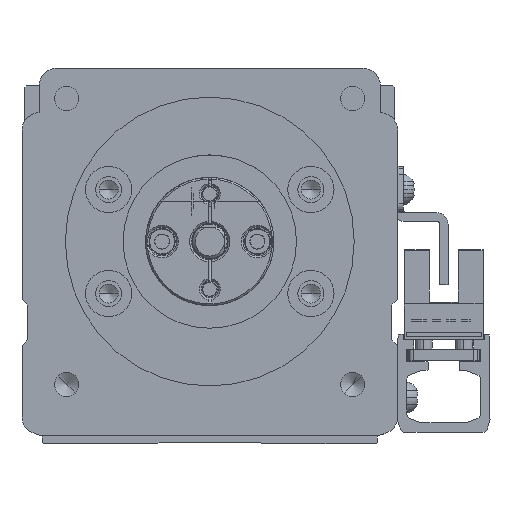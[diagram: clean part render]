
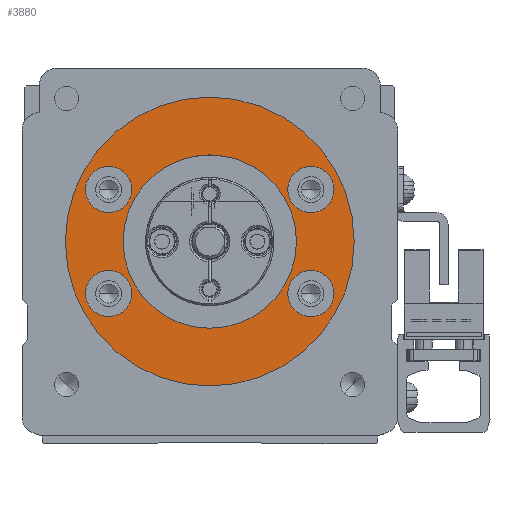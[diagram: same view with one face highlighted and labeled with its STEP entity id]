
A CAD part, front view. The second image highlights one B-rep face of the part: STEP entity #3880.
In plain terms, the highlighted planar face has unit normal (0, -1, 0).
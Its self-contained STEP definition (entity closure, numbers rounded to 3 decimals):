
#3880=ADVANCED_FACE('',(#10084,#10085,#10086,#10087,#10088,#10089),#10090,.F.);
#10084=FACE_BOUND('',#19597,.T.);
#10085=FACE_BOUND('',#19598,.T.);
#10086=FACE_BOUND('',#19599,.T.);
#10087=FACE_BOUND('',#19600,.T.);
#10088=FACE_BOUND('',#19601,.T.);
#10089=FACE_OUTER_BOUND('',#19602,.T.);
#10090=PLANE('',#19603);
#19597=EDGE_LOOP('',(#29998,#29999));
#19598=EDGE_LOOP('',(#30000,#30001));
#19599=EDGE_LOOP('',(#30002,#30003));
#19600=EDGE_LOOP('',(#30004,#30005));
#19601=EDGE_LOOP('',(#30006,#30007));
#19602=EDGE_LOOP('',(#30008,#30009));
#19603=AXIS2_PLACEMENT_3D('',#30010,#30011,#30012);
#29998=ORIENTED_EDGE('',*,*,#56072,.T.);
#29999=ORIENTED_EDGE('',*,*,#56073,.T.);
#30000=ORIENTED_EDGE('',*,*,#56074,.T.);
#30001=ORIENTED_EDGE('',*,*,#56075,.T.);
#30002=ORIENTED_EDGE('',*,*,#56076,.T.);
#30003=ORIENTED_EDGE('',*,*,#56077,.T.);
#30004=ORIENTED_EDGE('',*,*,#56078,.T.);
#30005=ORIENTED_EDGE('',*,*,#56079,.T.);
#30006=ORIENTED_EDGE('',*,*,#56080,.T.);
#30007=ORIENTED_EDGE('',*,*,#56081,.T.);
#30008=ORIENTED_EDGE('',*,*,#56082,.T.);
#30009=ORIENTED_EDGE('',*,*,#56083,.T.);
#30010=CARTESIAN_POINT('',(300.,-35.,0.));
#30011=DIRECTION('',(0.,1.0,0.));
#30012=DIRECTION('',(1.0,0.,0.));
#56072=EDGE_CURVE('',#66673,#66674,#66675,.T.);
#56073=EDGE_CURVE('',#66674,#66673,#66676,.T.);
#56074=EDGE_CURVE('',#66677,#66678,#66679,.T.);
#56075=EDGE_CURVE('',#66678,#66677,#66680,.T.);
#56076=EDGE_CURVE('',#66681,#66682,#66683,.T.);
#56077=EDGE_CURVE('',#66682,#66681,#66684,.T.);
#56078=EDGE_CURVE('',#66685,#66686,#66687,.T.);
#56079=EDGE_CURVE('',#66686,#66685,#66688,.T.);
#56080=EDGE_CURVE('',#66689,#66690,#66691,.T.);
#56081=EDGE_CURVE('',#66690,#66689,#66692,.T.);
#56082=EDGE_CURVE('',#66693,#66694,#66695,.T.);
#56083=EDGE_CURVE('',#66694,#66693,#66696,.T.);
#66673=VERTEX_POINT('',#82108);
#66674=VERTEX_POINT('',#82109);
#66675=CIRCLE('',#82110,4.0);
#66676=CIRCLE('',#82111,4.0);
#66677=VERTEX_POINT('',#82112);
#66678=VERTEX_POINT('',#82113);
#66679=CIRCLE('',#82114,4.0);
#66680=CIRCLE('',#82115,4.0);
#66681=VERTEX_POINT('',#82116);
#66682=VERTEX_POINT('',#82117);
#66683=CIRCLE('',#82118,4.0);
#66684=CIRCLE('',#82119,4.0);
#66685=VERTEX_POINT('',#82120);
#66686=VERTEX_POINT('',#82121);
#66687=CIRCLE('',#82122,4.0);
#66688=CIRCLE('',#82123,4.0);
#66689=VERTEX_POINT('',#82124);
#66690=VERTEX_POINT('',#82125);
#66691=CIRCLE('',#82126,15.0);
#66692=CIRCLE('',#82127,15.0);
#66693=VERTEX_POINT('',#82128);
#66694=VERTEX_POINT('',#82129);
#66695=CIRCLE('',#82130,25.0);
#66696=CIRCLE('',#82131,25.0);
#82108=CARTESIAN_POINT('',(286.5,-35.,-9.));
#82109=CARTESIAN_POINT('',(278.5,-35.,-9.));
#82110=AXIS2_PLACEMENT_3D('',#103339,#103340,#103341);
#82111=AXIS2_PLACEMENT_3D('',#103342,#103343,#103344);
#82112=CARTESIAN_POINT('',(321.5,-35.,-9.));
#82113=CARTESIAN_POINT('',(313.5,-35.,-9.));
#82114=AXIS2_PLACEMENT_3D('',#103345,#103346,#103347);
#82115=AXIS2_PLACEMENT_3D('',#103348,#103349,#103350);
#82116=CARTESIAN_POINT('',(286.5,-35.,9.));
#82117=CARTESIAN_POINT('',(278.5,-35.,9.));
#82118=AXIS2_PLACEMENT_3D('',#103351,#103352,#103353);
#82119=AXIS2_PLACEMENT_3D('',#103354,#103355,#103356);
#82120=CARTESIAN_POINT('',(321.5,-35.,9.));
#82121=CARTESIAN_POINT('',(313.5,-35.,9.));
#82122=AXIS2_PLACEMENT_3D('',#103357,#103358,#103359);
#82123=AXIS2_PLACEMENT_3D('',#103360,#103361,#103362);
#82124=CARTESIAN_POINT('',(285.,-35.,0.));
#82125=CARTESIAN_POINT('',(315.,-35.,0.));
#82126=AXIS2_PLACEMENT_3D('',#103363,#103364,#103365);
#82127=AXIS2_PLACEMENT_3D('',#103366,#103367,#103368);
#82128=CARTESIAN_POINT('',(325.,-35.,0.));
#82129=CARTESIAN_POINT('',(275.,-35.,0.));
#82130=AXIS2_PLACEMENT_3D('',#103369,#103370,#103371);
#82131=AXIS2_PLACEMENT_3D('',#103372,#103373,#103374);
#103339=CARTESIAN_POINT('',(282.5,-35.,-9.));
#103340=DIRECTION('',(0.,1.0,0.));
#103341=DIRECTION('',(-1.0,0.,0.));
#103342=CARTESIAN_POINT('',(282.5,-35.,-9.));
#103343=DIRECTION('',(0.,1.0,0.));
#103344=DIRECTION('',(-1.0,0.,0.));
#103345=CARTESIAN_POINT('',(317.5,-35.,-9.));
#103346=DIRECTION('',(0.,1.0,0.));
#103347=DIRECTION('',(-1.0,0.,0.));
#103348=CARTESIAN_POINT('',(317.5,-35.,-9.));
#103349=DIRECTION('',(0.,1.0,0.));
#103350=DIRECTION('',(-1.0,0.,0.));
#103351=CARTESIAN_POINT('',(282.5,-35.,9.));
#103352=DIRECTION('',(0.,1.0,0.));
#103353=DIRECTION('',(-1.0,0.,0.));
#103354=CARTESIAN_POINT('',(282.5,-35.,9.));
#103355=DIRECTION('',(0.,1.0,0.));
#103356=DIRECTION('',(-1.0,0.,0.));
#103357=CARTESIAN_POINT('',(317.5,-35.,9.));
#103358=DIRECTION('',(0.,1.0,0.));
#103359=DIRECTION('',(-1.0,0.,0.));
#103360=CARTESIAN_POINT('',(317.5,-35.,9.));
#103361=DIRECTION('',(0.,1.0,0.));
#103362=DIRECTION('',(-1.0,0.,0.));
#103363=CARTESIAN_POINT('',(300.,-35.,0.));
#103364=DIRECTION('',(0.,1.0,0.));
#103365=DIRECTION('',(1.0,0.,0.));
#103366=CARTESIAN_POINT('',(300.,-35.,0.));
#103367=DIRECTION('',(0.,1.0,0.));
#103368=DIRECTION('',(1.0,0.,0.));
#103369=CARTESIAN_POINT('',(300.,-35.,0.));
#103370=DIRECTION('',(0.,-1.0,0.));
#103371=DIRECTION('',(1.0,0.,0.));
#103372=CARTESIAN_POINT('',(300.,-35.,0.));
#103373=DIRECTION('',(0.,-1.0,0.));
#103374=DIRECTION('',(1.0,0.,0.));
